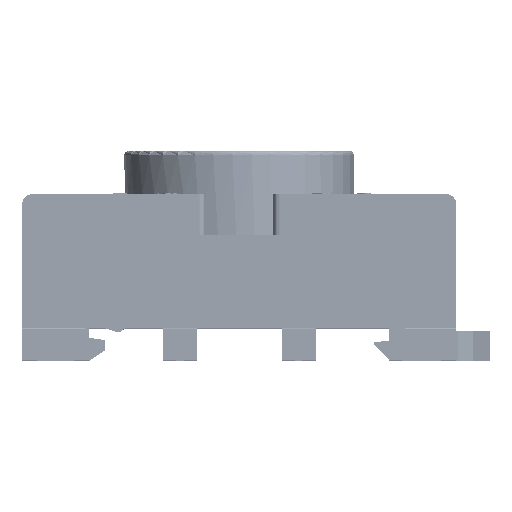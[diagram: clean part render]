
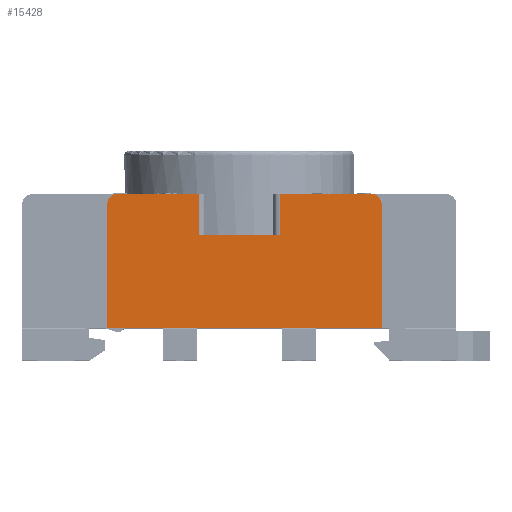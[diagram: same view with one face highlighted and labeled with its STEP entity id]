
A CAD part, top view. The second image highlights one B-rep face of the part: STEP entity #15428.
In plain terms, the highlighted planar face has unit normal (0, 0, 1).
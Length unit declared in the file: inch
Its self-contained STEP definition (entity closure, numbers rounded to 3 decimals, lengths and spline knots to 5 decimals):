
#13220 = VERTEX_POINT ( 'NONE', #40270 ) ;
#13292 = VERTEX_POINT ( 'NONE', #40604 ) ;
#13294 = EDGE_CURVE ( 'NONE', #13220, #13292, #40580, .T. ) ;
#13793 = VERTEX_POINT ( 'NONE', #41851 ) ;
#13794 = VERTEX_POINT ( 'NONE', #41850 ) ;
#13797 = EDGE_CURVE ( 'NONE', #13793, #13794, #41782, .T. ) ;
#14513 = EDGE_CURVE ( 'NONE', #14522, #14518, #43403, .T. ) ;
#14518 = VERTEX_POINT ( 'NONE', #43421 ) ;
#14522 = VERTEX_POINT ( 'NONE', #43400 ) ;
#15372 = EDGE_LOOP ( 'NONE', ( #15424, #15434, #15405, #15436, #15391, #15438, #15482, #15477, #15442, #15413 ) ) ;
#15379 = EDGE_CURVE ( 'NONE', #15425, #15426, #44963, .T. ) ;
#15387 = EDGE_CURVE ( 'NONE', #13794, #15443, #44974, .T. ) ;
#15391 = ORIENTED_EDGE ( 'NONE', *, *, #15440, .F. ) ;
#15405 = ORIENTED_EDGE ( 'NONE', *, *, #13797, .T. ) ;
#15413 = ORIENTED_EDGE ( 'NONE', *, *, #15486, .T. ) ;
#15423 = EDGE_CURVE ( 'NONE', #15426, #13793, #45065, .T. ) ;
#15424 = ORIENTED_EDGE ( 'NONE', *, *, #15379, .T. ) ;
#15425 = VERTEX_POINT ( 'NONE', #45015 ) ;
#15426 = VERTEX_POINT ( 'NONE', #45067 ) ;
#15428 = ADVANCED_FACE ( 'NONE', ( #45060 ), #45066, .T. ) ;
#15434 = ORIENTED_EDGE ( 'NONE', *, *, #15423, .T. ) ;
#15436 = ORIENTED_EDGE ( 'NONE', *, *, #15387, .T. ) ;
#15438 = ORIENTED_EDGE ( 'NONE', *, *, #14513, .T. ) ;
#15440 = EDGE_CURVE ( 'NONE', #14522, #15443, #45045, .T. ) ;
#15441 = EDGE_CURVE ( 'NONE', #14518, #15480, #45041, .T. ) ;
#15442 = ORIENTED_EDGE ( 'NONE', *, *, #13294, .T. ) ;
#15443 = VERTEX_POINT ( 'NONE', #45039 ) ;
#15477 = ORIENTED_EDGE ( 'NONE', *, *, #15483, .T. ) ;
#15480 = VERTEX_POINT ( 'NONE', #45113 ) ;
#15482 = ORIENTED_EDGE ( 'NONE', *, *, #15441, .T. ) ;
#15483 = EDGE_CURVE ( 'NONE', #15480, #13220, #45107, .T. ) ;
#15486 = EDGE_CURVE ( 'NONE', #13292, #15425, #45159, .T. ) ;
#40270 = CARTESIAN_POINT ( 'NONE',  ( 0.609, 0.31, 1.15 ) ) ;
#40576 = DIRECTION ( 'NONE',  ( -1., 0., 0. ) ) ;
#40578 = VECTOR ( 'NONE', #40576, 39.37008 ) ;
#40580 = LINE ( 'NONE', #40600, #40578 ) ;
#40600 = CARTESIAN_POINT ( 'NONE',  ( 1.005, 0.31, 1.15 ) ) ;
#40604 = CARTESIAN_POINT ( 'NONE',  ( 0.187, 0.31, 1.15 ) ) ;
#41782 = LINE ( 'NONE', #41848, #41847 ) ;
#41846 = DIRECTION ( 'NONE',  ( -1., 0., 0. ) ) ;
#41847 = VECTOR ( 'NONE', #41846, 39.37008 ) ;
#41848 = CARTESIAN_POINT ( 'NONE',  ( 1.005, 0.31, 1.15 ) ) ;
#41850 = CARTESIAN_POINT ( 'NONE',  ( -0.561, 0.31, 1.15 ) ) ;
#41851 = CARTESIAN_POINT ( 'NONE',  ( -0.188, 0.31, 1.15 ) ) ;
#43400 = CARTESIAN_POINT ( 'NONE',  ( -0.611, -0.31, 1.15 ) ) ;
#43401 = DIRECTION ( 'NONE',  ( 1., 0., 0. ) ) ;
#43402 = VECTOR ( 'NONE', #43401, 39.37008 ) ;
#43403 = LINE ( 'NONE', #43406, #43402 ) ;
#43406 = CARTESIAN_POINT ( 'NONE',  ( 1.005, -0.31, 1.15 ) ) ;
#43421 = CARTESIAN_POINT ( 'NONE',  ( 0.659, -0.31, 1.15 ) ) ;
#44957 = AXIS2_PLACEMENT_3D ( 'NONE', #44959, #45009, #45008 ) ;
#44959 = CARTESIAN_POINT ( 'NONE',  ( -0.561, 0.26, 1.15 ) ) ;
#44960 = DIRECTION ( 'NONE',  ( -1., 0., 0. ) ) ;
#44961 = VECTOR ( 'NONE', #44960, 39.37008 ) ;
#44962 = CARTESIAN_POINT ( 'NONE',  ( -0.158, 0.12, 1.15 ) ) ;
#44963 = LINE ( 'NONE', #44962, #44961 ) ;
#44974 = CIRCLE ( 'NONE', #44957, 0.05 ) ;
#45008 = DIRECTION ( 'NONE',  ( 1., 0., 0. ) ) ;
#45009 = DIRECTION ( 'NONE',  ( 0., 0., 1. ) ) ;
#45015 = CARTESIAN_POINT ( 'NONE',  ( 0.187, 0.12, 1.15 ) ) ;
#45017 = AXIS2_PLACEMENT_3D ( 'NONE', #45025, #45058, #45057 ) ;
#45025 = CARTESIAN_POINT ( 'NONE',  ( -1.005, 0.31, 1.15 ) ) ;
#45039 = CARTESIAN_POINT ( 'NONE',  ( -0.611, 0.26, 1.15 ) ) ;
#45040 = CARTESIAN_POINT ( 'NONE',  ( 0.659, -0.31, 1.15 ) ) ;
#45041 = LINE ( 'NONE', #45040, #45095 ) ;
#45042 = DIRECTION ( 'NONE',  ( 0., 1., 0. ) ) ;
#45043 = VECTOR ( 'NONE', #45042, 39.37008 ) ;
#45044 = CARTESIAN_POINT ( 'NONE',  ( -0.611, -0.31, 1.15 ) ) ;
#45045 = LINE ( 'NONE', #45044, #45043 ) ;
#45057 = DIRECTION ( 'NONE',  ( 1., 0., 0. ) ) ;
#45058 = DIRECTION ( 'NONE',  ( 0., 0., 1. ) ) ;
#45060 = FACE_OUTER_BOUND ( 'NONE', #15372, .T. ) ;
#45062 = DIRECTION ( 'NONE',  ( 0., 1., 0. ) ) ;
#45063 = VECTOR ( 'NONE', #45062, 39.37008 ) ;
#45064 = CARTESIAN_POINT ( 'NONE',  ( -0.188, 0.31, 1.15 ) ) ;
#45065 = LINE ( 'NONE', #45064, #45063 ) ;
#45066 = PLANE ( 'NONE',  #45017 ) ;
#45067 = CARTESIAN_POINT ( 'NONE',  ( -0.188, 0.12, 1.15 ) ) ;
#45094 = DIRECTION ( 'NONE',  ( 0., 1., 0. ) ) ;
#45095 = VECTOR ( 'NONE', #45094, 39.37008 ) ;
#45097 = DIRECTION ( 'NONE',  ( 0., -1., 0. ) ) ;
#45102 = CARTESIAN_POINT ( 'NONE',  ( 0.187, 0.12, 1.15 ) ) ;
#45103 = DIRECTION ( 'NONE',  ( 1., 0., 0. ) ) ;
#45104 = DIRECTION ( 'NONE',  ( 0., 0., 1. ) ) ;
#45105 = CARTESIAN_POINT ( 'NONE',  ( 0.609, 0.26, 1.15 ) ) ;
#45106 = AXIS2_PLACEMENT_3D ( 'NONE', #45105, #45104, #45103 ) ;
#45107 = CIRCLE ( 'NONE', #45106, 0.05 ) ;
#45113 = CARTESIAN_POINT ( 'NONE',  ( 0.659, 0.26, 1.15 ) ) ;
#45158 = VECTOR ( 'NONE', #45097, 39.37008 ) ;
#45159 = LINE ( 'NONE', #45102, #45158 ) ;
